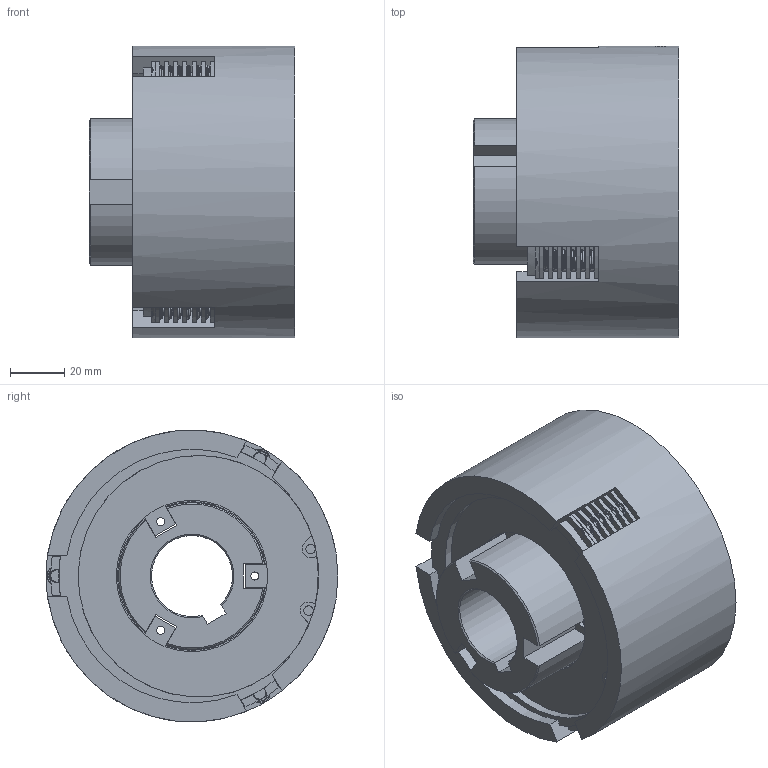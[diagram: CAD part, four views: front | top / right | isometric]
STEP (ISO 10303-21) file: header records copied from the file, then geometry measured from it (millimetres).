
FILE_DESCRIPTION(/* description */ ('','CAx-IF Rec.Pracs.---Representation and Presentation of Product Manufacturing Information (PMI)---4.0---2014-10-13'),/* implementation_level */ '2;1');
FILE_NAME(/* name */ 'X:\INVENTOR\DISEGNI\03_Friz_Oleod_Pneum_Cil_Stat\03_05 FPL-BF\03_05_003_01 FPL03-BF\03_05_003_01 FPL03-F30@STEP.stp',/* time_stamp */ '2017-11-09T15:12:37+01:00',/* author */ ('stefano'),/* organization */ (''),/* preprocessor_version */ 'ST-DEVELOPER v17',/* originating_system */ 'Autodesk Inventor 2018',/* authorisation */ '');
FILE_SCHEMA (('AP242_MANAGED_MODEL_BASED_3D_ENGINEERING_MIM_LF { 1 0 10303 442 1 1 4 }'));
Length unit declared in the file: millimetre
Products named in the file (1): 03_05_003_01 FPL03-V2013_Substitute_1
Bounding box: 76 x 108 x 108 mm (x, y, z)
Volume: 419051.2 mm3; surface area: 203041.5 mm2
Topology: 19 solids, 19 shells, 494 faces, 1340 edges, 892 vertices
Faces by surface type: plane 267, cylinder 176, cone 30, bspline 18, torus 3
Full cylindrical faces by diameter (mm): 2 x3, 2.75 x24, 3 x18, 3.5 x5, 4.917 x6, 8.566 x1, 50 x1, 56 x8, 60 x2, 65 x1, 70 x1, 75 x1, 77.5 x1, 90 x7, 108 x1
Entity records: 22368 total; most frequent: CARTESIAN_POINT 9043, DIRECTION 2808, ORIENTED_EDGE 2660, EDGE_CURVE 1330, AXIS2_PLACEMENT_3D 1071, VERTEX_POINT 892, LINE 666, VECTOR 666
